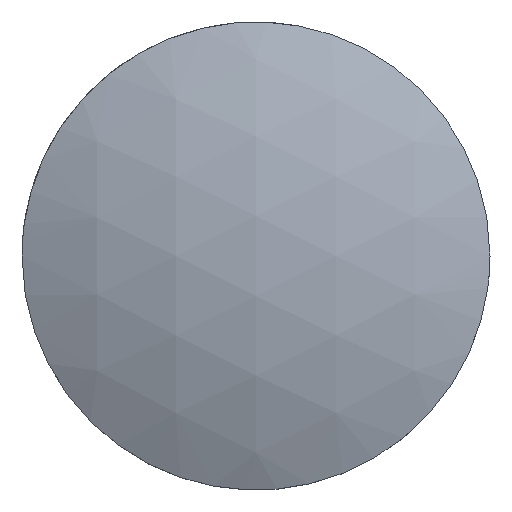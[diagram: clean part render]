
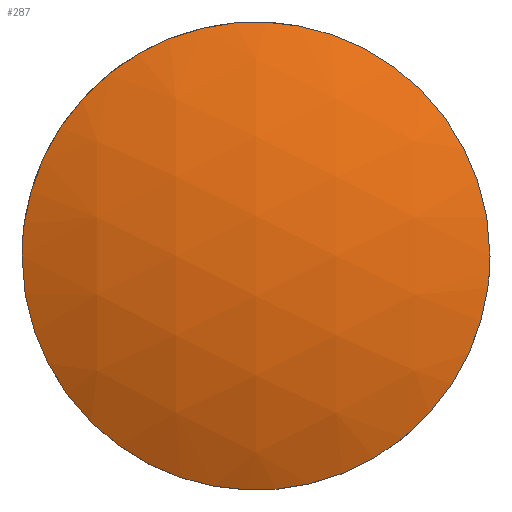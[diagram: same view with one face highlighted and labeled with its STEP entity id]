
A CAD part, top view. The second image highlights one B-rep face of the part: STEP entity #287.
In plain terms, the highlighted spherical face has radius 29.7 mm.
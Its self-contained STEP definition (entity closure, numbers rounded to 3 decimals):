
#19 = CARTESIAN_POINT ('', (-12.5, 0., -12.759));
#20 = VERTEX_POINT ('', #19);
#26 = CARTESIAN_POINT ('', (12.5, 0., -12.759));
#27 = VERTEX_POINT ('', #26);
#28 = CARTESIAN_POINT ('', (12.5, 0., -12.759));
#29 = CARTESIAN_POINT ('', (12.5, 12.5, -12.759));
#30 = CARTESIAN_POINT ('', (0., 12.5, -12.759));
#31 = CARTESIAN_POINT ('', (-12.5, 12.5, -12.759));
#32 = CARTESIAN_POINT ('', (-12.5, 0., -12.759));
#33 = (
   BOUNDED_CURVE ()
   B_SPLINE_CURVE (2, (#28, #29, #30, #31, #32), .UNSPECIFIED., .F., .U.)
   B_SPLINE_CURVE_WITH_KNOTS ((3, 2, 3), (0., 1.571, 3.142), .UNSPECIFIED.)
   CURVE ()
   GEOMETRIC_REPRESENTATION_ITEM ()
   RATIONAL_B_SPLINE_CURVE ((1., 0.707, 1., 0.707, 1.))
   REPRESENTATION_ITEM ('')
);
#34 = EDGE_CURVE ('', #27, #20, #33, .T.);
#58 = CARTESIAN_POINT ('', (-12.5, 0., -12.759));
#59 = CARTESIAN_POINT ('', (-12.5, -12.5, -12.759));
#60 = CARTESIAN_POINT ('', (0., -12.5, -12.759));
#61 = CARTESIAN_POINT ('', (12.5, -12.5, -12.759));
#62 = CARTESIAN_POINT ('', (12.5, 0., -12.759));
#63 = (
   BOUNDED_CURVE ()
   B_SPLINE_CURVE (2, (#58, #59, #60, #61, #62), .UNSPECIFIED., .F., .U.)
   B_SPLINE_CURVE_WITH_KNOTS ((3, 2, 3), (3.142, 4.712, 6.283), .UNSPECIFIED.)
   CURVE ()
   GEOMETRIC_REPRESENTATION_ITEM ()
   RATIONAL_B_SPLINE_CURVE ((1., 0.707, 1., 0.707, 1.))
   REPRESENTATION_ITEM ('')
);
#64 = EDGE_CURVE ('', #20, #27, #63, .T.);
#278 = ORIENTED_EDGE ('', *, *, #34, .T.);
#279 = ORIENTED_EDGE ('', *, *, #64, .T.);
#280 = EDGE_LOOP ('', (#278, #279));
#281 = FACE_OUTER_BOUND ('', #280, .T.);
#282 = CARTESIAN_POINT ('', (0., 0., -39.7));
#283 = DIRECTION ('', (-1., 0., 0.));
#284 = DIRECTION ('', (0., -1., 0.));
#285 = AXIS2_PLACEMENT_3D ('', #282, #283, #284);
#286 = SPHERICAL_SURFACE ('', #285, 29.7);
#287 = ADVANCED_FACE ('', (#281), #286, .T.);
